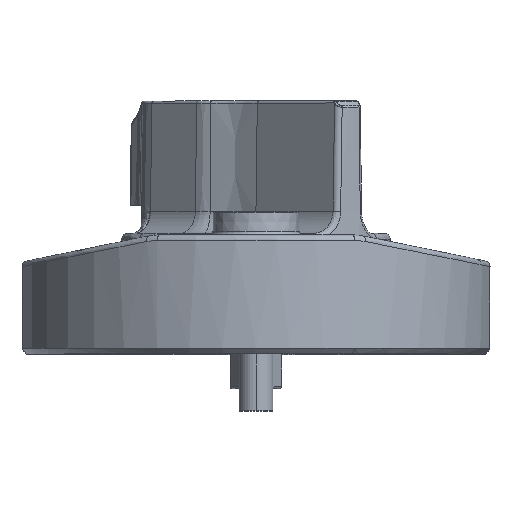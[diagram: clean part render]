
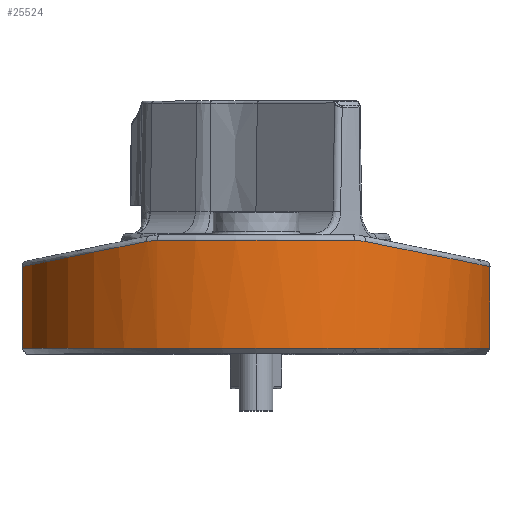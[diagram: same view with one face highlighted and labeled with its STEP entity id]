
A CAD part, top view. The second image highlights one B-rep face of the part: STEP entity #25524.
In plain terms, the highlighted cylindrical face has radius 20.95 mm (diameter 41.9 mm), a partial arc.
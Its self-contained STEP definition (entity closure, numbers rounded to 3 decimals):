
#260=CARTESIAN_POINT('',(0.,-0.5,0.));
#261=DIRECTION('',(0.,-1.,0.));
#262=DIRECTION('',(0.415,0.,0.91));
#263=AXIS2_PLACEMENT_3D('',#260,#261,#262);
#268=CARTESIAN_POINT('',(-20.641,-2.778,3.586));
#269=CARTESIAN_POINT('',(-20.541,-2.759,4.159));
#270=CARTESIAN_POINT('',(-20.294,-2.709,5.299));
#271=CARTESIAN_POINT('',(-19.781,-2.608,6.973));
#272=CARTESIAN_POINT('',(-19.129,-2.478,8.603));
#273=CARTESIAN_POINT('',(-18.343,-2.322,10.171));
#274=CARTESIAN_POINT('',(-17.436,-2.142,11.658));
#275=CARTESIAN_POINT('',(-16.402,-1.937,13.073));
#276=CARTESIAN_POINT('',(-15.245,-1.707,14.406));
#277=CARTESIAN_POINT('',(-13.99,-1.457,15.627));
#278=CARTESIAN_POINT('',(-12.634,-1.188,16.743));
#279=CARTESIAN_POINT('',(-11.18,-0.899,
17.747));
#280=CARTESIAN_POINT('',(-10.151,-0.695,
18.336));
#281=CARTESIAN_POINT('',(-9.623,-0.59,
18.609));
#286=CARTESIAN_POINT('',(-9.623,-0.59,
18.609));
#287=CARTESIAN_POINT('',(-9.515,-0.569,
18.665));
#288=CARTESIAN_POINT('',(-9.307,-0.535,
18.77));
#289=CARTESIAN_POINT('',(-9.,-0.506,
18.919));
#290=CARTESIAN_POINT('',(-8.802,-0.5,
19.012));
#291=CARTESIAN_POINT('',(-8.704,-0.5,
19.056));
#292=CARTESIAN_POINT('',(-8.704,-0.5,
19.056));
#297=CARTESIAN_POINT('',(8.704,-0.5,19.056));
#298=CARTESIAN_POINT('',(8.818,-0.5,19.004));
#299=CARTESIAN_POINT('',(9.032,-0.508,18.904));
#300=CARTESIAN_POINT('',(9.338,-0.54,18.754));
#301=CARTESIAN_POINT('',(9.531,-0.572,18.657));
#302=CARTESIAN_POINT('',(9.624,-0.59,18.609));
#307=CARTESIAN_POINT('',(9.624,-0.59,18.609));
#308=CARTESIAN_POINT('',(10.147,-0.694,18.338));
#309=CARTESIAN_POINT('',(11.17,-0.897,17.753));
#310=CARTESIAN_POINT('',(12.622,-1.186,16.752));
#311=CARTESIAN_POINT('',(13.98,-1.456,15.636));
#312=CARTESIAN_POINT('',(15.24,-1.706,14.411));
#313=CARTESIAN_POINT('',(16.403,-1.937,13.073));
#314=CARTESIAN_POINT('',(17.441,-2.143,11.651));
#315=CARTESIAN_POINT('',(18.351,-2.324,10.157));
#316=CARTESIAN_POINT('',(19.138,-2.48,8.584));
#317=CARTESIAN_POINT('',(19.788,-2.609,6.953));
#318=CARTESIAN_POINT('',(20.297,-2.71,5.285));
#319=CARTESIAN_POINT('',(20.542,-2.759,4.154));
#320=CARTESIAN_POINT('',(20.641,-2.778,3.586));
#325=CARTESIAN_POINT('',(0.,-10.,0.));
#326=DIRECTION('',(0.,1.,0.));
#327=DIRECTION('',(-0.985,0.,0.171));
#328=AXIS2_PLACEMENT_3D('',#325,#326,#327);
#957=DIRECTION('',(0.,1.,0.));
#958=VECTOR('',#957,7.222);
#959=CARTESIAN_POINT('',(20.641,-10.,3.586));
#960=LINE('',#959,#958);
#971=CARTESIAN_POINT('',(0.,-10.,0.));
#972=DIRECTION('',(0.,1.,0.));
#973=DIRECTION('',(0.415,0.,0.91));
#974=AXIS2_PLACEMENT_3D('',#971,#972,#973);
#1028=CARTESIAN_POINT('',(0.,-10.,0.));
#1029=DIRECTION('',(0.,1.,0.));
#1030=DIRECTION('',(-0.415,0.,0.91));
#1031=AXIS2_PLACEMENT_3D('',#1028,#1029,#1030);
#1036=CARTESIAN_POINT('',(0.,-10.,0.));
#1037=DIRECTION('',(0.,1.,0.));
#1038=DIRECTION('',(0.,0.,1.));
#1039=AXIS2_PLACEMENT_3D('',#1036,#1037,#1038);
#12572=DIRECTION('',(0.,-1.,0.));
#12573=VECTOR('',#12572,7.222);
#12574=CARTESIAN_POINT('',(-20.641,-2.778,
3.586));
#12575=LINE('',#12574,#12573);
#22769=CARTESIAN_POINT('',(8.704,-0.5,19.056));
#22770=CARTESIAN_POINT('',(-8.706,-0.5,19.056));
#22771=VERTEX_POINT('',#22769);
#22772=VERTEX_POINT('',#22770);
#22773=CARTESIAN_POINT('',(-20.641,-10.,3.586));
#22774=CARTESIAN_POINT('',(-8.704,-10.,19.056));
#22775=VERTEX_POINT('',#22773);
#22776=VERTEX_POINT('',#22774);
#22777=CARTESIAN_POINT('',(-20.641,-2.778,
3.586));
#22778=VERTEX_POINT('',#22777);
#22779=VERTEX_POINT('',#281);
#22780=VERTEX_POINT('',#302);
#22781=VERTEX_POINT('',#320);
#22782=CARTESIAN_POINT('',(20.641,-10.,
3.586));
#22783=VERTEX_POINT('',#22782);
#22784=CARTESIAN_POINT('',(8.704,-10.,19.056));
#22785=VERTEX_POINT('',#22784);
#22786=CARTESIAN_POINT('',(0.,-10.,20.95));
#22787=VERTEX_POINT('',#22786);
#25496=CARTESIAN_POINT('',(0.,0.,0.));
#25497=DIRECTION('',(0.,1.,0.));
#25498=DIRECTION('',(1.,0.,0.));
#25499=AXIS2_PLACEMENT_3D('',#25496,#25497,#25498);
#25500=CYLINDRICAL_SURFACE('',#25499,20.95);
#25502=ORIENTED_EDGE('',*,*,#25501,.F.);
#25504=ORIENTED_EDGE('',*,*,#25503,.F.);
#25506=ORIENTED_EDGE('',*,*,#25505,.T.);
#25508=ORIENTED_EDGE('',*,*,#25507,.T.);
#25509=ORIENTED_EDGE('',*,*,#25486,.F.);
#25511=ORIENTED_EDGE('',*,*,#25510,.T.);
#25513=ORIENTED_EDGE('',*,*,#25512,.T.);
#25515=ORIENTED_EDGE('',*,*,#25514,.F.);
#25517=ORIENTED_EDGE('',*,*,#25516,.F.);
#25519=ORIENTED_EDGE('',*,*,#25518,.F.);
#25521=ORIENTED_EDGE('',*,*,#25520,.F.);
#25522=EDGE_LOOP('',(#25502,#25504,#25506,#25508,#25509,#25511,#25513,#25515,
#25517,#25519,#25521));
#25523=FACE_OUTER_BOUND('',#25522,.F.);
#264=CIRCLE('',#263,20.95);
#282=B_SPLINE_CURVE_WITH_KNOTS('',3,(#268,#269,#270,#271,#272,#273,#274,#275,
#276,#277,#278,#279,#280,#281),.UNSPECIFIED.,.F.,.F.,(4,1,1,1,1,1,1,1,1,1,1,4),(
0.,0.091,0.182,0.273,0.364,
0.455,0.545,0.636,0.727,
0.818,0.909,1.),.UNSPECIFIED.);
#293=B_SPLINE_CURVE_WITH_KNOTS('',3,(#286,#287,#288,#289,#290,#291,#292),
.UNSPECIFIED.,.F.,.F.,(4,1,1,1,4),(0.,0.362,0.686,
1.,1.),.UNSPECIFIED.);
#303=B_SPLINE_CURVE_WITH_KNOTS('',3,(#297,#298,#299,#300,#301,#302),
.UNSPECIFIED.,.F.,.F.,(4,1,1,4),(0.,0.365,0.69,1.),
.UNSPECIFIED.);
#321=B_SPLINE_CURVE_WITH_KNOTS('',3,(#307,#308,#309,#310,#311,#312,#313,#314,
#315,#316,#317,#318,#319,#320),.UNSPECIFIED.,.F.,.F.,(4,1,1,1,1,1,1,1,1,1,1,4),(
0.,0.091,0.182,0.273,0.364,
0.455,0.545,0.636,0.727,
0.818,0.909,1.),.UNSPECIFIED.);
#329=CIRCLE('',#328,20.95);
#975=CIRCLE('',#974,20.95);
#1032=CIRCLE('',#1031,20.95);
#1040=CIRCLE('',#1039,20.95);
#25486=EDGE_CURVE('',#22771,#22772,#264,.T.);
#25501=EDGE_CURVE('',#22775,#22776,#329,.T.);
#25503=EDGE_CURVE('',#22778,#22775,#12575,.T.);
#25505=EDGE_CURVE('',#22778,#22779,#282,.T.);
#25507=EDGE_CURVE('',#22779,#22772,#293,.T.);
#25510=EDGE_CURVE('',#22771,#22780,#303,.T.);
#25512=EDGE_CURVE('',#22780,#22781,#321,.T.);
#25514=EDGE_CURVE('',#22783,#22781,#960,.T.);
#25516=EDGE_CURVE('',#22785,#22783,#975,.T.);
#25518=EDGE_CURVE('',#22787,#22785,#1040,.T.);
#25520=EDGE_CURVE('',#22776,#22787,#1032,.T.);
#25524=ADVANCED_FACE('',(#25523),#25500,.T.);
